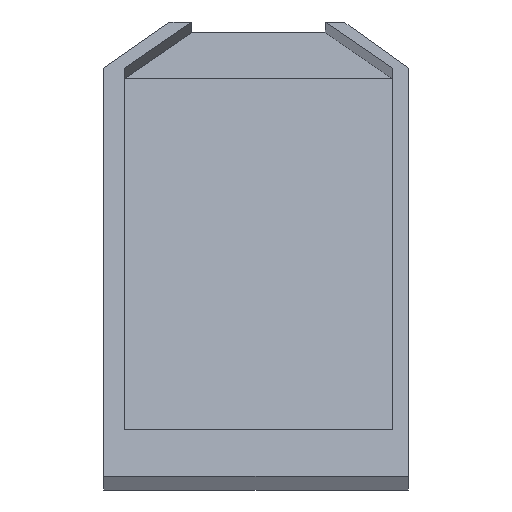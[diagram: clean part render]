
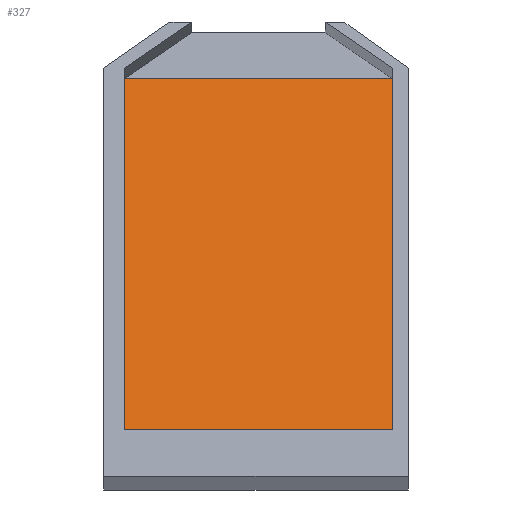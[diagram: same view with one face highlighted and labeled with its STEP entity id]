
A CAD part, top view. The second image highlights one B-rep face of the part: STEP entity #327.
In plain terms, the highlighted planar face has unit normal (0, 0.225, 0.974).
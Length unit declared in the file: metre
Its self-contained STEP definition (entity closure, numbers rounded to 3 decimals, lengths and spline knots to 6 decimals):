
#80=ORIENTED_EDGE('',*,*,#139,.F.);
#81=ORIENTED_EDGE('',*,*,#121,.T.);
#82=ORIENTED_EDGE('',*,*,#140,.T.);
#83=ORIENTED_EDGE('',*,*,#141,.T.);
#121=EDGE_CURVE('',#158,#160,#193,.T.);
#139=EDGE_CURVE('',#158,#170,#211,.T.);
#140=EDGE_CURVE('',#160,#171,#212,.T.);
#141=EDGE_CURVE('',#171,#170,#213,.T.);
#158=VERTEX_POINT('',#483);
#160=VERTEX_POINT('',#489);
#170=VERTEX_POINT('',#526);
#171=VERTEX_POINT('',#528);
#193=LINE('',#490,#237);
#211=LINE('',#525,#255);
#212=LINE('',#527,#256);
#213=LINE('',#529,#257);
#237=VECTOR('',#398,1.);
#255=VECTOR('',#432,1.);
#256=VECTOR('',#433,1.);
#257=VECTOR('',#434,1.);
#273=EDGE_LOOP('',(#80,#81,#82,#83));
#291=FACE_BOUND('',#273,.T.);
#309=PLANE('',#358);
#327=ADVANCED_FACE('',(#291),#309,.T.);
#358=AXIS2_PLACEMENT_3D('',#524,#430,#431);
#398=DIRECTION('',(-1.,0.,0.));
#430=DIRECTION('',(0.,0.225,0.974));
#431=DIRECTION('',(-1.,0.,0.));
#432=DIRECTION('',(0.,-0.974,0.225));
#433=DIRECTION('',(0.,-0.974,0.225));
#434=DIRECTION('',(1.,0.,0.));
#483=CARTESIAN_POINT('',(-0.094646,-0.036413,-0.037796));
#489=CARTESIAN_POINT('',(-0.179646,-0.036413,-0.037796));
#490=CARTESIAN_POINT('',(-0.182867,-0.036413,-0.037796));
#524=CARTESIAN_POINT('',(-0.137867,-0.10103,-0.022878));
#525=CARTESIAN_POINT('',(-0.094646,-0.10103,-0.022878));
#526=CARTESIAN_POINT('',(-0.094646,-0.151031,-0.011335));
#527=CARTESIAN_POINT('',(-0.179646,-0.10103,-0.022878));
#528=CARTESIAN_POINT('',(-0.179646,-0.151031,-0.011335));
#529=CARTESIAN_POINT('',(-0.137867,-0.151031,-0.011335));
